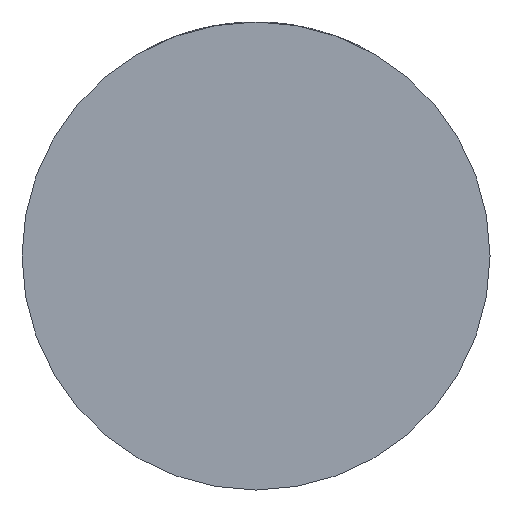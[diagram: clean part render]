
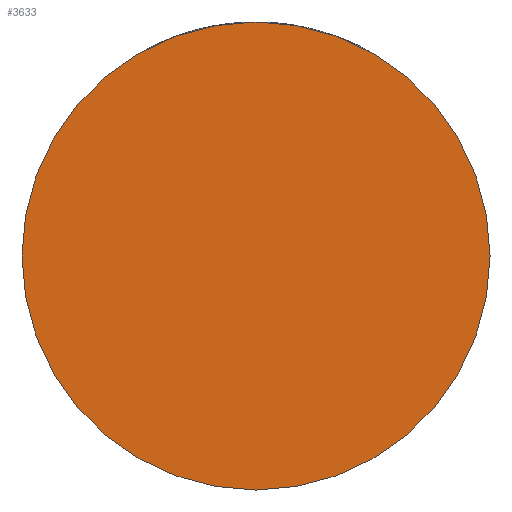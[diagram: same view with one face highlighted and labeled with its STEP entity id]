
A CAD part, front view. The second image highlights one B-rep face of the part: STEP entity #3633.
In plain terms, the highlighted planar face has unit normal (0, -1, 0).
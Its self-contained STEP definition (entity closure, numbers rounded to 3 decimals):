
#10 = CARTESIAN_POINT ( 'NONE',  ( 0., -60., 0. ) ) ;
#213 = DIRECTION ( 'NONE',  ( 0., -1., 0. ) ) ;
#366 = PLANE ( 'NONE',  #3432 ) ;
#422 = VERTEX_POINT ( 'NONE', #2180 ) ;
#1003 = EDGE_CURVE ( 'NONE', #1050, #422, #3324, .T. ) ;
#1050 = VERTEX_POINT ( 'NONE', #1674 ) ;
#1511 = AXIS2_PLACEMENT_3D ( 'NONE', #4500, #213, #3066 ) ;
#1674 = CARTESIAN_POINT ( 'NONE',  ( 64., -60., 0. ) ) ;
#1955 = EDGE_LOOP ( 'NONE', ( #4467, #3241 ) ) ;
#2029 = AXIS2_PLACEMENT_3D ( 'NONE', #10, #4441, #2567 ) ;
#2162 = EDGE_CURVE ( 'NONE', #422, #1050, #4676, .T. ) ;
#2180 = CARTESIAN_POINT ( 'NONE',  ( -64., -60., 0. ) ) ;
#2567 = DIRECTION ( 'NONE',  ( 1., 0., 0. ) ) ;
#3066 = DIRECTION ( 'NONE',  ( 1., 0., 0. ) ) ;
#3241 = ORIENTED_EDGE ( 'NONE', *, *, #1003, .T. ) ;
#3267 = DIRECTION ( 'NONE',  ( 1., 0., 0. ) ) ;
#3324 = CIRCLE ( 'NONE', #1511, 64. ) ;
#3432 = AXIS2_PLACEMENT_3D ( 'NONE', #4673, #3580, #3267 ) ;
#3580 = DIRECTION ( 'NONE',  ( 0., -1., 0. ) ) ;
#3633 = ADVANCED_FACE ( 'NONE', ( #4006 ), #366, .T. ) ;
#4006 = FACE_OUTER_BOUND ( 'NONE', #1955, .T. ) ;
#4441 = DIRECTION ( 'NONE',  ( 0., -1., 0. ) ) ;
#4467 = ORIENTED_EDGE ( 'NONE', *, *, #2162, .T. ) ;
#4500 = CARTESIAN_POINT ( 'NONE',  ( 0., -60., 0. ) ) ;
#4673 = CARTESIAN_POINT ( 'NONE',  ( 0., -60., 0. ) ) ;
#4676 = CIRCLE ( 'NONE', #2029, 64. ) ;
